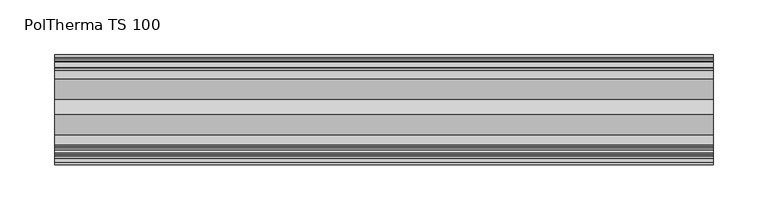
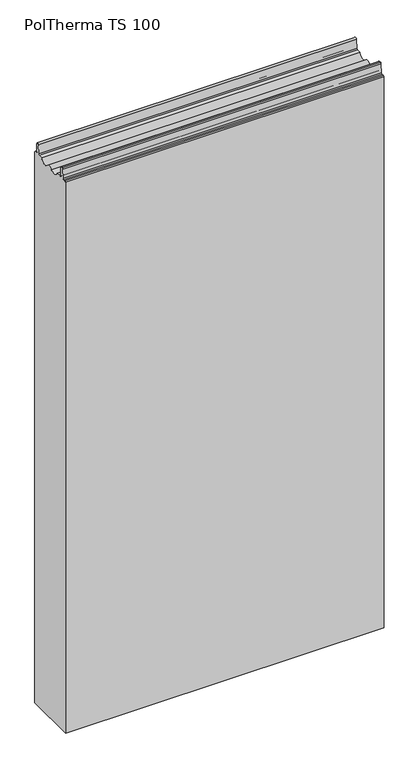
"""IFC4 building model written with IfcOpenShell, lengths in millimetres: plate geometry, Europanels_Poltherma TS_Hz : PolTherma TS 100."""

from ifc_helpers import new_model, si_unit, point, frame, frame_2d, origin, place, context, project, spatial, polyline, circle_curve, trimmed, segment, composite_curve, outline, extrude, source, transform, mapped, element, save


def poltherma_ts_100_44fe8c07(model_context):
    return source(origin(), model_context, "Body", "SweptSolid", [
        extrude(outline(composite_curve([segment(trimmed(circle_curve(frame_2d((-48.0, 1096.5011047)), 2.0), [point((-50.0, 1096.5011047))], [point((-48.0, 1098.5011047))], False, "CARTESIAN"), True, "CONTINUOUS"), segment(polyline([(-48.0, 1098.5011047), (-44.244573, 1098.5011047)]), True, "CONTINUOUS"), segment(trimmed(circle_curve(frame_2d((-44.244573, 1100.5011047)), 2.0), [point((-44.244573, 1098.5011047))], [point((-42.2483736, 1100.3778643))], True, "CARTESIAN"), True, "CONTINUOUS"), segment(polyline([(-42.2483736, 1100.3778643), (-41.1836192, 1117.624345)]), True, "CONTINUOUS"), segment(trimmed(circle_curve(frame_2d((-39.1874198, 1117.5011047)), 2.0), [point((-41.1836192, 1117.624345))], [point((-39.1874198, 1119.5011047))], False, "CARTESIAN"), True, "CONTINUOUS"), segment(polyline([(-39.1874198, 1119.5011047), (-36.4480373, 1119.5011047)]), True, "CONTINUOUS"), segment(trimmed(circle_curve(frame_2d((-36.4480373, 1117.5011047)), 2.0), [point((-36.4480373, 1119.5011047))], [point((-34.4498501, 1117.5862394))], False, "CARTESIAN"), True, "CONTINUOUS"), segment(polyline([(-34.4498501, 1117.5862394), (-33.7101357, 1100.2244834)]), True, "CONTINUOUS"), segment(trimmed(circle_curve(frame_2d((-31.9117672, 1100.3011047)), 1.8), [point((-33.7101357, 1100.2244834))], [point((-31.9117672, 1098.5011047))], True, "CARTESIAN"), True, "CONTINUOUS"), segment(polyline([(-31.9117672, 1098.5011047), (-22.9234285, 1098.5011047)]), True, "CONTINUOUS"), segment(trimmed(circle_curve(frame_2d((-12.3, 1101.354658)), 11.0), [point((-22.9234285, 1098.5011047))], [point((-4.05, 1094.0788419))], True, "CARTESIAN"), True, "CONTINUOUS"), segment(trimmed(circle_curve(frame_2d((2.7, 1088.1259015)), 9.0), [point((-4.05, 1094.0788419))], [point((9.45, 1094.0788419))], False, "CARTESIAN"), True, "CONTINUOUS"), segment(trimmed(circle_curve(frame_2d((17.7, 1101.354658)), 11.0), [point((9.45, 1094.0788419))], [point((28.3234285, 1098.5011047))], True, "CARTESIAN"), True, "CONTINUOUS"), segment(polyline([(28.3234285, 1098.5011047), (36.113894, 1098.5011047)]), True, "CONTINUOUS"), segment(trimmed(circle_curve(frame_2d((36.113894, 1100.5011047)), 2.0), [point((36.113894, 1098.5011047))], [point((38.1120505, 1100.4152514))], True, "CARTESIAN"), True, "CONTINUOUS"), segment(polyline([(38.1120505, 1100.4152514), (38.8418822, 1117.4014159)]), True, "CONTINUOUS"), segment(trimmed(circle_curve(frame_2d((41.019533, 1117.3078504)), 2.1796599), [point((38.8418822, 1117.4014159))], [point((43.1949638, 1117.4435621))], False, "CARTESIAN"), True, "CONTINUOUS"), segment(polyline([(43.1949638, 1117.4435621), (44.2596673, 1100.3765791)]), True, "CONTINUOUS"), segment(trimmed(circle_curve(frame_2d((46.2557869, 1100.5011047)), 2.0), [point((44.2596673, 1100.3765791))], [point((46.2557869, 1098.5011047))], True, "CARTESIAN"), True, "CONTINUOUS"), segment(polyline([(46.2557869, 1098.5011047), (48.0, 1098.5011047)]), True, "CONTINUOUS"), segment(trimmed(circle_curve(frame_2d((48.0, 1096.5011047)), 2.0), [point((48.0, 1098.5011047))], [point((50.0, 1096.5011047))], False, "CARTESIAN"), True, "CONTINUOUS"), segment(polyline([(50.0, 1096.5011047), (50.0, 0.0), (-50.0, 0.0), (-50.0, 1096.5011047)]), True, "CONTINUOUS")], self_intersect=False)), frame((-300.0, 0.0, 0.0), z_axis=(1.0, 0.0, 0.0), x_axis=(0.0, 1.0, 0.0)), (0.0, 0.0, 1.0), 600.0),
    ])


if __name__ == "__main__":
    model = new_model("IFC4")
    model_context = context("Model", 3, world=origin())
    ifc_project = project(units=[si_unit("LENGTHUNIT", "METRE", prefix="MILLI")], contexts=[model_context])
    site = spatial("IfcSite", under=ifc_project)
    building = spatial("IfcBuilding", under=site)
    placement = place(None, origin())
    poltherma_ts_100_shape = poltherma_ts_100_44fe8c07(model_context)
    element("IfcPlate", 1, ObjectType="Europanels_Poltherma TS_Hz : PolTherma TS 100", at=placement, inside=building, context=model_context, shape_type="MappedRepresentation", body=[
        mapped(poltherma_ts_100_shape, transform((0.0, 0.0, 0.0), x_axis=(1.0, 0.0, 0.0), y_axis=(0.0, 1.0, 0.0), z_axis=(0.0, 0.0, 1.0))),
    ])
    save(model, "model.ifc")
